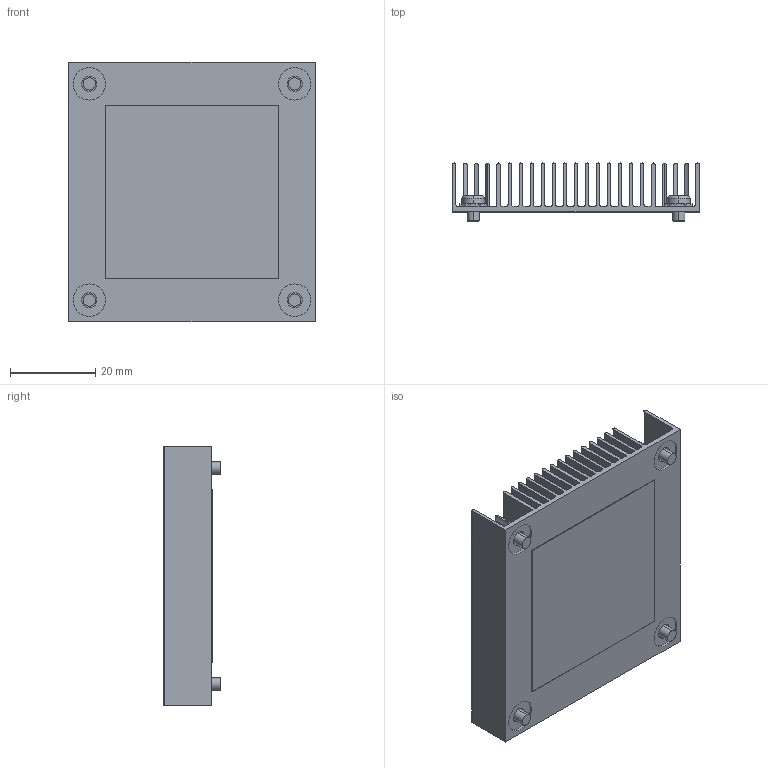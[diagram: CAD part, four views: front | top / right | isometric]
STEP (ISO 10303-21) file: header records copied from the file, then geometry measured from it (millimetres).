
FILE_DESCRIPTION (( 'STEP AP214' ), '1' );
FILE_NAME ('HS1576EBK04.STEP', '2023-03-03T18:36:12', ( '' ), ( '' ), 'SwSTEP 2.0', 'SolidWorks 2020', '' );
FILE_SCHEMA (( 'AUTOMOTIVE_DESIGN' ));
Length unit declared in the file: millimetre
Products named in the file (1): HS1576EBK04
Bounding box: 57.91 x 13.53 x 60.96 mm (x, y, z)
Volume: 15106.8 mm3; surface area: 37485.7 mm2
Topology: 6 solids, 6 shells, 536 faces, 1380 edges, 874 vertices
Faces by surface type: plane 383, cylinder 145, torus 8
Entity records: 22662 total; most frequent: CARTESIAN_POINT 3442, ORIENTED_EDGE 2760, DIRECTION 2748, EDGE_CURVE 1380, VECTOR 1018, LINE 1018, VERTEX_POINT 874, AXIS2_PLACEMENT_3D 865
